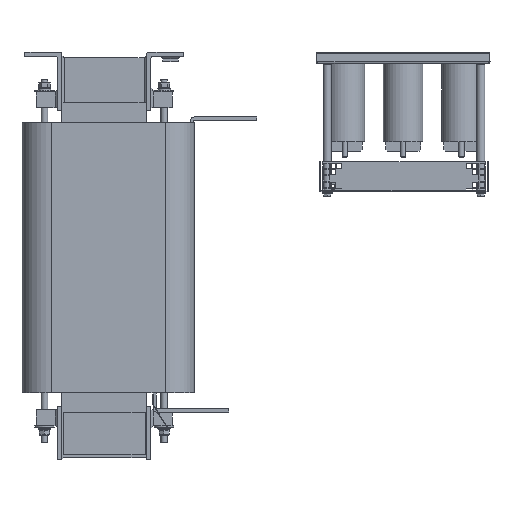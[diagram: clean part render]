
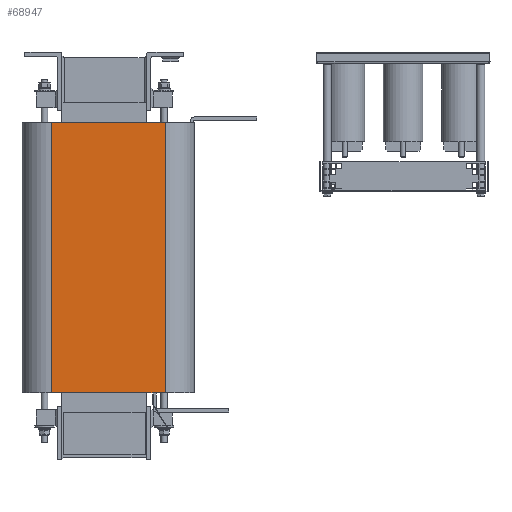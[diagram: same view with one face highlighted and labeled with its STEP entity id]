
A CAD part, left-side view. The second image highlights one B-rep face of the part: STEP entity #68947.
In plain terms, the highlighted planar face has unit normal (-1, 0, 0).
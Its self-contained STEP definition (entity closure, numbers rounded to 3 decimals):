
#6955=FACE_OUTER_BOUND('',#11310,.T.);
#11310=EDGE_LOOP('',(#53595,#53596,#53597,#53598));
#16977=LINE('',#107946,#23808);
#17267=LINE('',#108889,#24098);
#17272=LINE('',#108903,#24103);
#17273=LINE('',#108905,#24104);
#23808=VECTOR('',#86522,10.);
#24098=VECTOR('',#87344,10.);
#24103=VECTOR('',#87361,10.);
#24104=VECTOR('',#87364,10.);
#30508=VERTEX_POINT('',#107943);
#30509=VERTEX_POINT('',#107945);
#30895=VERTEX_POINT('',#108885);
#30899=VERTEX_POINT('',#108901);
#38432=EDGE_CURVE('',#30509,#30508,#16977,.T.);
#38910=EDGE_CURVE('',#30509,#30895,#17267,.T.);
#38917=EDGE_CURVE('',#30899,#30508,#17272,.T.);
#38918=EDGE_CURVE('',#30899,#30895,#17273,.T.);
#53595=ORIENTED_EDGE('',*,*,#38910,.F.);
#53596=ORIENTED_EDGE('',*,*,#38432,.T.);
#53597=ORIENTED_EDGE('',*,*,#38917,.F.);
#53598=ORIENTED_EDGE('',*,*,#38918,.T.);
#62517=PLANE('',#73716);
#68947=ADVANCED_FACE('',(#6955),#62517,.T.);
#73716=AXIS2_PLACEMENT_3D('',#108904,#87362,#87363);
#86522=DIRECTION('',(0.,-1.,0.));
#87344=DIRECTION('',(0.,0.,1.));
#87361=DIRECTION('',(0.,0.,-1.));
#87362=DIRECTION('center_axis',(-1.,0.,0.));
#87363=DIRECTION('ref_axis',(0.,0.,1.));
#87364=DIRECTION('',(0.,1.,0.));
#107943=CARTESIAN_POINT('',(0.,55.,-643.5));
#107945=CARTESIAN_POINT('',(0.,270.18,-643.5));
#107946=CARTESIAN_POINT('',(0.,325.18,-643.5));
#108885=CARTESIAN_POINT('',(0.,270.18,-133.5));
#108889=CARTESIAN_POINT('',(0.,270.18,-388.5));
#108901=CARTESIAN_POINT('',(0.,55.,-133.5));
#108903=CARTESIAN_POINT('',(0.,55.,-388.5));
#108904=CARTESIAN_POINT('Origin',(0.,325.18,
-388.5));
#108905=CARTESIAN_POINT('',(0.,325.18,-133.5));
